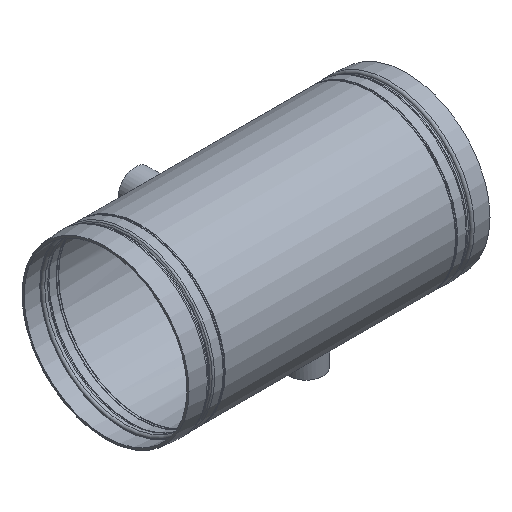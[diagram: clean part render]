
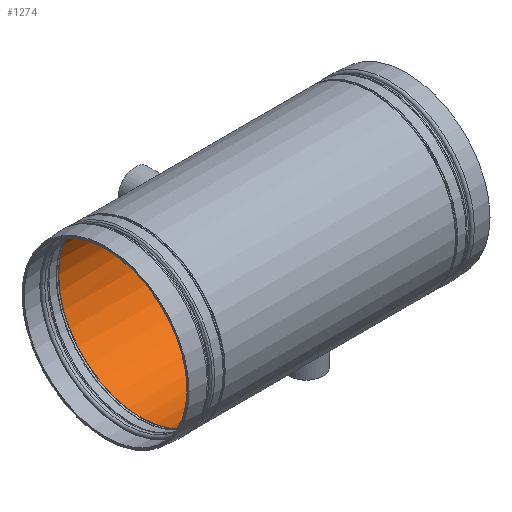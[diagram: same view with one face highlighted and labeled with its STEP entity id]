
A CAD part, isometric view. The second image highlights one B-rep face of the part: STEP entity #1274.
In plain terms, the highlighted cylindrical face has radius 82.106 mm (diameter 164.211 mm), a full revolution.
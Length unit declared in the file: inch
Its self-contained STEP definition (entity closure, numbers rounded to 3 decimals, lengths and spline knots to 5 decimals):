
#81=FACE_BOUND('',#171,.T.);
#82=FACE_BOUND('',#172,.T.);
#108=FACE_OUTER_BOUND('',#170,.T.);
#170=EDGE_LOOP('',(#817,#818,#819,#820,#821,#822,#823,#824));
#171=EDGE_LOOP('',(#825,#826));
#172=EDGE_LOOP('',(#827,#828));
#237=B_SPLINE_CURVE_WITH_KNOTS('',3,(#2093,#2094,#2095,#2096,#2097,#2098,
#2099,#2100,#2101,#2102),.UNSPECIFIED.,.F.,.F.,(4,2,2,2,4),(0.,0.40234,
0.80468,1.20702,1.60935),.UNSPECIFIED.);
#238=B_SPLINE_CURVE_WITH_KNOTS('',3,(#2103,#2104,#2105,#2106,#2107,#2108,
#2109,#2110,#2111,#2112,#2113,#2114,#2115,#2116,#2117,#2118,#2119,#2120,
#2121,#2122,#2123,#2124,#2125,#2126,#2127,#2128),.UNSPECIFIED.,.F.,.F.,
(4,2,2,2,2,2,2,2,2,2,2,2,4),(1.60935,2.01169,2.41402,
2.81636,3.21871,3.62105,4.02339,4.42572,
4.82806,5.23039,5.63273,6.03507,6.43741),
 .UNSPECIFIED.);
#241=B_SPLINE_CURVE_WITH_KNOTS('',3,(#2227,#2228,#2229,#2230,#2231,#2232,
#2233,#2234,#2235,#2236,#2237,#2238,#2239,#2240,#2241,#2242,#2243,#2244,
#2245,#2246,#2247,#2248,#2249,#2250,#2251,#2252),.UNSPECIFIED.,.F.,.F.,
(4,2,2,2,2,2,2,2,2,2,2,2,4),(0.,0.40234,0.80468,1.20702,
1.60935,2.01169,2.41402,2.81636,3.21871,
3.62105,4.02339,4.42572,4.82806),
 .UNSPECIFIED.);
#242=B_SPLINE_CURVE_WITH_KNOTS('',3,(#2253,#2254,#2255,#2256,#2257,#2258,
#2259,#2260,#2261,#2262),.UNSPECIFIED.,.F.,.F.,(4,2,2,2,4),(4.82806,
5.23039,5.63273,6.03507,6.43741),
 .UNSPECIFIED.);
#248=LINE('',#2218,#272);
#272=VECTOR('',#1615,3.2325);
#297=CIRCLE('',#1359,3.2325);
#298=CIRCLE('',#1360,3.2325);
#299=CIRCLE('',#1361,3.2325);
#300=CIRCLE('',#1362,3.2325);
#301=CIRCLE('',#1363,3.2325);
#302=CIRCLE('',#1364,3.2325);
#458=VERTEX_POINT('',#2090);
#459=VERTEX_POINT('',#2092);
#465=VERTEX_POINT('',#2212);
#466=VERTEX_POINT('',#2213);
#467=VERTEX_POINT('',#2215);
#468=VERTEX_POINT('',#2217);
#469=VERTEX_POINT('',#2219);
#470=VERTEX_POINT('',#2221);
#471=VERTEX_POINT('',#2225);
#472=VERTEX_POINT('',#2226);
#605=EDGE_CURVE('',#459,#458,#237,.T.);
#606=EDGE_CURVE('',#458,#459,#238,.T.);
#614=EDGE_CURVE('',#465,#466,#297,.T.);
#615=EDGE_CURVE('',#466,#467,#298,.T.);
#616=EDGE_CURVE('',#467,#468,#248,.T.);
#617=EDGE_CURVE('',#469,#468,#299,.T.);
#618=EDGE_CURVE('',#470,#469,#300,.T.);
#619=EDGE_CURVE('',#468,#470,#301,.T.);
#620=EDGE_CURVE('',#467,#465,#302,.T.);
#621=EDGE_CURVE('',#471,#472,#241,.T.);
#622=EDGE_CURVE('',#472,#471,#242,.T.);
#817=ORIENTED_EDGE('',*,*,#614,.T.);
#818=ORIENTED_EDGE('',*,*,#615,.T.);
#819=ORIENTED_EDGE('',*,*,#616,.T.);
#820=ORIENTED_EDGE('',*,*,#617,.F.);
#821=ORIENTED_EDGE('',*,*,#618,.F.);
#822=ORIENTED_EDGE('',*,*,#619,.F.);
#823=ORIENTED_EDGE('',*,*,#616,.F.);
#824=ORIENTED_EDGE('',*,*,#620,.T.);
#825=ORIENTED_EDGE('',*,*,#605,.T.);
#826=ORIENTED_EDGE('',*,*,#606,.T.);
#827=ORIENTED_EDGE('',*,*,#621,.T.);
#828=ORIENTED_EDGE('',*,*,#622,.T.);
#1194=CYLINDRICAL_SURFACE('',#1358,3.2325);
#1274=ADVANCED_FACE('',(#108,#81,#82),#1194,.F.);
#1358=AXIS2_PLACEMENT_3D('',#2211,#1609,#1610);
#1359=AXIS2_PLACEMENT_3D('',#2214,#1611,#1612);
#1360=AXIS2_PLACEMENT_3D('',#2216,#1613,#1614);
#1361=AXIS2_PLACEMENT_3D('',#2220,#1616,#1617);
#1362=AXIS2_PLACEMENT_3D('',#2222,#1618,#1619);
#1363=AXIS2_PLACEMENT_3D('',#2223,#1620,#1621);
#1364=AXIS2_PLACEMENT_3D('',#2224,#1622,#1623);
#1609=DIRECTION('center_axis',(1.,0.,0.));
#1610=DIRECTION('ref_axis',(0.,1.,0.));
#1611=DIRECTION('center_axis',(1.,0.,0.));
#1612=DIRECTION('ref_axis',(0.,0.,-1.));
#1613=DIRECTION('center_axis',(1.,0.,0.));
#1614=DIRECTION('ref_axis',(0.,0.,-1.));
#1615=DIRECTION('',(-1.,0.,0.));
#1616=DIRECTION('center_axis',(1.,0.,0.));
#1617=DIRECTION('ref_axis',(0.,0.,-1.));
#1618=DIRECTION('center_axis',(1.,0.,0.));
#1619=DIRECTION('ref_axis',(0.,0.,-1.));
#1620=DIRECTION('center_axis',(1.,0.,0.));
#1621=DIRECTION('ref_axis',(0.,0.,-1.));
#1622=DIRECTION('center_axis',(1.,0.,0.));
#1623=DIRECTION('ref_axis',(0.,0.,-1.));
#2090=CARTESIAN_POINT('',(1.54,0.,-3.2325));
#2092=CARTESIAN_POINT('',(1.96,-0.42,-3.2051));
#2093=CARTESIAN_POINT('Ctrl Pts',(1.96,-0.42,-3.2051));
#2094=CARTESIAN_POINT('Ctrl Pts',(1.9072,-0.42,-3.2051));
#2095=CARTESIAN_POINT('Ctrl Pts',(1.85092,-0.40944,-3.20654));
#2096=CARTESIAN_POINT('Ctrl Pts',(1.74746,-0.36655,-3.21172));
#2097=CARTESIAN_POINT('Ctrl Pts',(1.70027,-0.33424,-3.21539));
#2098=CARTESIAN_POINT('Ctrl Pts',(1.62576,-0.25973,-3.22227));
#2099=CARTESIAN_POINT('Ctrl Pts',(1.59345,-0.21254,-3.22592));
#2100=CARTESIAN_POINT('Ctrl Pts',(1.55056,-0.10908,-3.23107));
#2101=CARTESIAN_POINT('Ctrl Pts',(1.54,-0.0528,-3.2325));
#2102=CARTESIAN_POINT('Ctrl Pts',(1.54,0.,-3.2325));
#2103=CARTESIAN_POINT('Ctrl Pts',(1.54,0.,-3.2325));
#2104=CARTESIAN_POINT('Ctrl Pts',(1.54,0.0528,-3.2325));
#2105=CARTESIAN_POINT('Ctrl Pts',(1.55056,0.10908,-3.23107));
#2106=CARTESIAN_POINT('Ctrl Pts',(1.59345,0.21254,-3.22592));
#2107=CARTESIAN_POINT('Ctrl Pts',(1.62576,0.25973,-3.22227));
#2108=CARTESIAN_POINT('Ctrl Pts',(1.70027,0.33424,-3.21539));
#2109=CARTESIAN_POINT('Ctrl Pts',(1.74746,0.36655,-3.21172));
#2110=CARTESIAN_POINT('Ctrl Pts',(1.85092,0.40944,-3.20654));
#2111=CARTESIAN_POINT('Ctrl Pts',(1.9072,0.42,-3.2051));
#2112=CARTESIAN_POINT('Ctrl Pts',(2.0128,0.42,-3.2051));
#2113=CARTESIAN_POINT('Ctrl Pts',(2.06908,0.40944,-3.20654));
#2114=CARTESIAN_POINT('Ctrl Pts',(2.17254,0.36655,-3.21172));
#2115=CARTESIAN_POINT('Ctrl Pts',(2.21973,0.33424,-3.21539));
#2116=CARTESIAN_POINT('Ctrl Pts',(2.29424,0.25973,-3.22227));
#2117=CARTESIAN_POINT('Ctrl Pts',(2.32655,0.21254,-3.22592));
#2118=CARTESIAN_POINT('Ctrl Pts',(2.36944,0.10908,-3.23107));
#2119=CARTESIAN_POINT('Ctrl Pts',(2.38,0.0528,-3.2325));
#2120=CARTESIAN_POINT('Ctrl Pts',(2.38,-0.0528,-3.2325));
#2121=CARTESIAN_POINT('Ctrl Pts',(2.36944,-0.10908,-3.23107));
#2122=CARTESIAN_POINT('Ctrl Pts',(2.32655,-0.21254,-3.22592));
#2123=CARTESIAN_POINT('Ctrl Pts',(2.29424,-0.25973,-3.22227));
#2124=CARTESIAN_POINT('Ctrl Pts',(2.21973,-0.33424,-3.21539));
#2125=CARTESIAN_POINT('Ctrl Pts',(2.17254,-0.36655,-3.21172));
#2126=CARTESIAN_POINT('Ctrl Pts',(2.06908,-0.40944,-3.20654));
#2127=CARTESIAN_POINT('Ctrl Pts',(2.0128,-0.42,-3.2051));
#2128=CARTESIAN_POINT('Ctrl Pts',(1.96,-0.42,-3.2051));
#2211=CARTESIAN_POINT('Origin',(-2.25363,0.,
0.));
#2212=CARTESIAN_POINT('',(4.50727,3.2325,0.));
#2213=CARTESIAN_POINT('',(4.50727,0.,3.2325));
#2214=CARTESIAN_POINT('Origin',(4.50727,0.,0.));
#2215=CARTESIAN_POINT('',(4.50727,-3.2325,0.));
#2216=CARTESIAN_POINT('Origin',(4.50727,0.,0.));
#2217=CARTESIAN_POINT('',(-4.50727,-3.2325,0.));
#2218=CARTESIAN_POINT('',(-2.25363,-3.2325,0.));
#2219=CARTESIAN_POINT('',(-4.50727,0.,3.2325));
#2220=CARTESIAN_POINT('Origin',(-4.50727,0.,
0.));
#2221=CARTESIAN_POINT('',(-4.50727,3.2325,0.));
#2222=CARTESIAN_POINT('Origin',(-4.50727,0.,
0.));
#2223=CARTESIAN_POINT('Origin',(-4.50727,0.,
0.));
#2224=CARTESIAN_POINT('Origin',(4.50727,0.,0.));
#2225=CARTESIAN_POINT('',(-0.01,3.2051,-0.42));
#2226=CARTESIAN_POINT('',(0.41,3.2325,0.));
#2227=CARTESIAN_POINT('Ctrl Pts',(-0.01,3.2051,
-0.42));
#2228=CARTESIAN_POINT('Ctrl Pts',(-0.0628,3.2051,
-0.42));
#2229=CARTESIAN_POINT('Ctrl Pts',(-0.11908,3.20654,-0.40944));
#2230=CARTESIAN_POINT('Ctrl Pts',(-0.22254,3.21172,-0.36655));
#2231=CARTESIAN_POINT('Ctrl Pts',(-0.26973,3.21539,-0.33424));
#2232=CARTESIAN_POINT('Ctrl Pts',(-0.34424,3.22227,-0.25973));
#2233=CARTESIAN_POINT('Ctrl Pts',(-0.37655,3.22592,-0.21254));
#2234=CARTESIAN_POINT('Ctrl Pts',(-0.41944,3.23107,-0.10908));
#2235=CARTESIAN_POINT('Ctrl Pts',(-0.43,3.2325,-0.0528));
#2236=CARTESIAN_POINT('Ctrl Pts',(-0.43,3.2325,0.0528));
#2237=CARTESIAN_POINT('Ctrl Pts',(-0.41944,3.23107,0.10908));
#2238=CARTESIAN_POINT('Ctrl Pts',(-0.37655,3.22592,0.21254));
#2239=CARTESIAN_POINT('Ctrl Pts',(-0.34424,3.22227,0.25973));
#2240=CARTESIAN_POINT('Ctrl Pts',(-0.26973,3.21539,0.33424));
#2241=CARTESIAN_POINT('Ctrl Pts',(-0.22254,3.21172,0.36655));
#2242=CARTESIAN_POINT('Ctrl Pts',(-0.11908,3.20654,0.40944));
#2243=CARTESIAN_POINT('Ctrl Pts',(-0.0628,3.2051,
0.42));
#2244=CARTESIAN_POINT('Ctrl Pts',(0.0428,3.2051,0.42));
#2245=CARTESIAN_POINT('Ctrl Pts',(0.09908,3.20654,0.40944));
#2246=CARTESIAN_POINT('Ctrl Pts',(0.20254,3.21172,0.36655));
#2247=CARTESIAN_POINT('Ctrl Pts',(0.24973,3.21539,0.33424));
#2248=CARTESIAN_POINT('Ctrl Pts',(0.32424,3.22227,0.25973));
#2249=CARTESIAN_POINT('Ctrl Pts',(0.35655,3.22592,0.21254));
#2250=CARTESIAN_POINT('Ctrl Pts',(0.39944,3.23107,0.10908));
#2251=CARTESIAN_POINT('Ctrl Pts',(0.41,3.2325,0.0528));
#2252=CARTESIAN_POINT('Ctrl Pts',(0.41,3.2325,0.));
#2253=CARTESIAN_POINT('Ctrl Pts',(0.41,3.2325,0.));
#2254=CARTESIAN_POINT('Ctrl Pts',(0.41,3.2325,-0.0528));
#2255=CARTESIAN_POINT('Ctrl Pts',(0.39944,3.23107,-0.10908));
#2256=CARTESIAN_POINT('Ctrl Pts',(0.35655,3.22592,-0.21254));
#2257=CARTESIAN_POINT('Ctrl Pts',(0.32424,3.22227,-0.25973));
#2258=CARTESIAN_POINT('Ctrl Pts',(0.24973,3.21539,-0.33424));
#2259=CARTESIAN_POINT('Ctrl Pts',(0.20254,3.21172,-0.36655));
#2260=CARTESIAN_POINT('Ctrl Pts',(0.09908,3.20654,-0.40944));
#2261=CARTESIAN_POINT('Ctrl Pts',(0.0428,3.2051,-0.42));
#2262=CARTESIAN_POINT('Ctrl Pts',(-0.01,3.2051,
-0.42));
